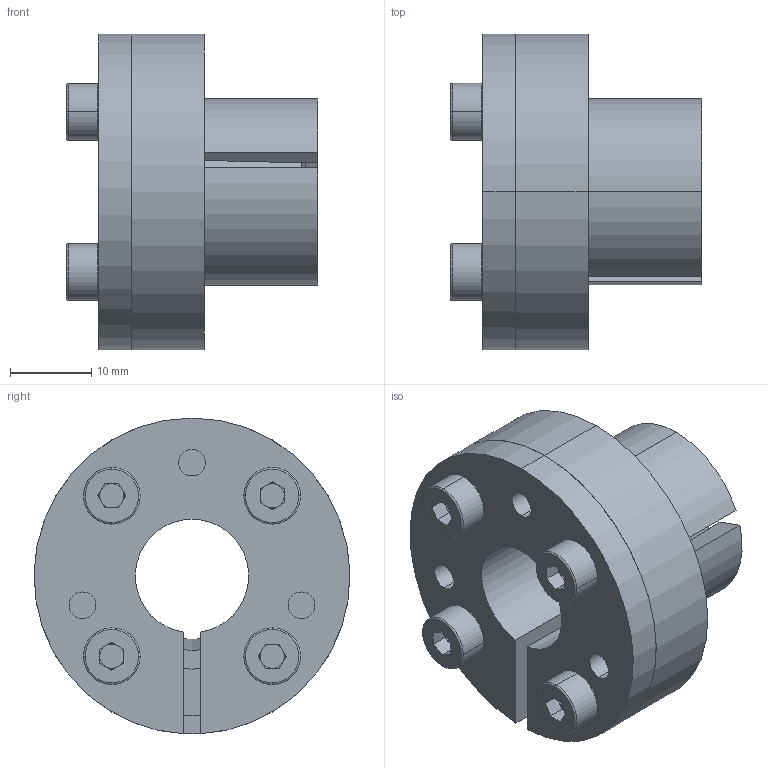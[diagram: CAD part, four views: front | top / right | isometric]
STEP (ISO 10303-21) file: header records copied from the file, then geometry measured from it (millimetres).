
FILE_DESCRIPTION (( 'STEP AP203' ), '1' );
FILE_NAME ('T-14-23.STEP', '2017-11-06T05:00:50', ( 'MYCOM' ), ( '' ), 'SwSTEP 2.0', 'SolidWorks 2015', '' );
FILE_SCHEMA (( 'CONFIG_CONTROL_DESIGN' ));
Length unit declared in the file: millimetre
Products named in the file (1): T-14-23
Bounding box: 31 x 39 x 39 mm (x, y, z)
Surface area: 11824.5 mm2 (no closed solid volume)
Topology: 0 solids, 11 shells, 127 faces, 343 edges, 220 vertices
Faces by surface type: plane 59, cylinder 47, torus 16, cone 5
Entity records: 4099 total; most frequent: DIRECTION 769, CARTESIAN_POINT 709, ORIENTED_EDGE 601, EDGE_CURVE 343, AXIS2_PLACEMENT_3D 302, VERTEX_POINT 220, CIRCLE 174, LINE 165
